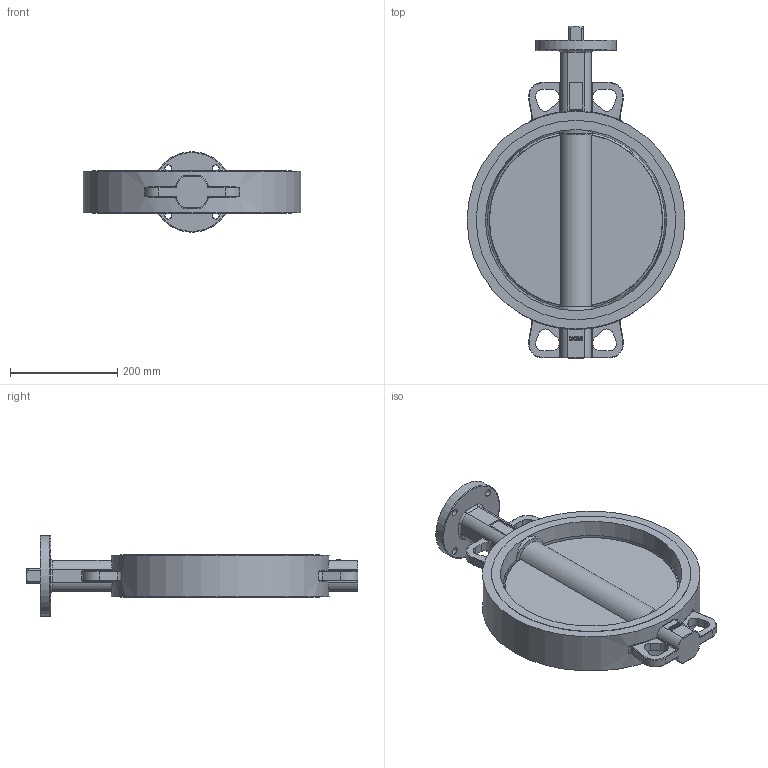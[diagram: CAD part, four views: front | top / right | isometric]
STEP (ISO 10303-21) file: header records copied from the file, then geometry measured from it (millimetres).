
FILE_DESCRIPTION (( 'STEP AP203' ), '1' );
FILE_NAME ('J9.DN350.STEP', '2013-01-17T07:43:04', ( 'luca.saino' ), ( 'Hewlett-Packard Company' ), 'SwSTEP 2.0', 'SolidWorks 2012', '' );
FILE_SCHEMA (( 'CONFIG_CONTROL_DESIGN' ));
Length unit declared in the file: millimetre
Products named in the file (1): J9.DN350
Bounding box: 406 x 619 x 150 mm (x, y, z)
Volume: 6289762.1 mm3; surface area: 546351.7 mm2
Topology: 1 solids, 2 shells, 327 faces, 828 edges, 514 vertices
Faces by surface type: plane 112, cylinder 92, bspline 55, torus 47, cone 15, sphere 6
Full cylindrical faces by diameter (mm): 13 x4, 48 x1, 50.5 x1, 150 x1, 372.1 x2, 406 x1
Entity records: 13470 total; most frequent: CARTESIAN_POINT 6067, ORIENTED_EDGE 1594, DIRECTION 1377, EDGE_CURVE 797, AXIS2_PLACEMENT_3D 516, VERTEX_POINT 506, EDGE_LOOP 377, VECTOR 345
